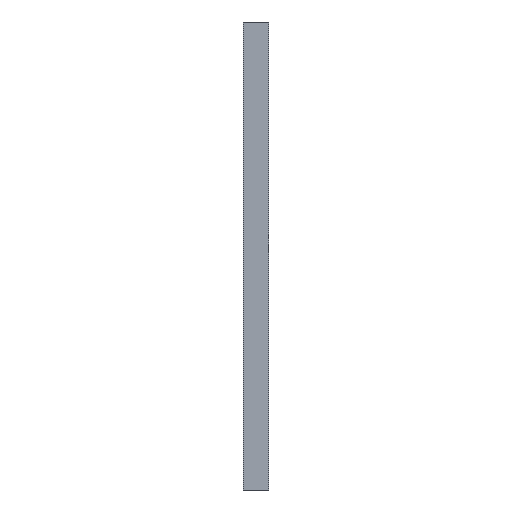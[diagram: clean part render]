
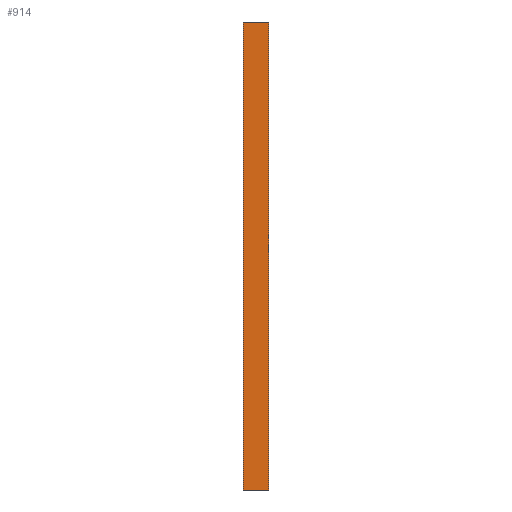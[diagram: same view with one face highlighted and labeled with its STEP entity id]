
A CAD part, left-side view. The second image highlights one B-rep face of the part: STEP entity #914.
In plain terms, the highlighted planar face has unit normal (-1, 0, 0).
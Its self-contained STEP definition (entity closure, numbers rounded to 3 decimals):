
#18 = ORIENTED_EDGE ( 'NONE', *, *, #453, .F. ) ;
#79 = CARTESIAN_POINT ( 'NONE',  ( -205.5, -20., -334. ) ) ;
#127 = VERTEX_POINT ( 'NONE', #218 ) ;
#185 = LINE ( 'NONE', #553, #450 ) ;
#204 = DIRECTION ( 'NONE',  ( 0., 0., 1. ) ) ;
#218 = CARTESIAN_POINT ( 'NONE',  ( -205.5, -20., 30. ) ) ;
#247 = EDGE_CURVE ( 'NONE', #127, #995, #1006, .T. ) ;
#288 = ORIENTED_EDGE ( 'NONE', *, *, #247, .T. ) ;
#321 = DIRECTION ( 'NONE',  ( 0., 1., 0. ) ) ;
#361 = DIRECTION ( 'NONE',  ( 0., 0., 1. ) ) ;
#374 = VECTOR ( 'NONE', #433, 1000. ) ;
#403 = AXIS2_PLACEMENT_3D ( 'NONE', #595, #852, #414 ) ;
#414 = DIRECTION ( 'NONE',  ( 0., 0., 1. ) ) ;
#418 = VERTEX_POINT ( 'NONE', #944 ) ;
#433 = DIRECTION ( 'NONE',  ( 0., 1., 0. ) ) ;
#450 = VECTOR ( 'NONE', #361, 1000. ) ;
#453 = EDGE_CURVE ( 'NONE', #863, #418, #1119, .T. ) ;
#455 = LINE ( 'NONE', #1066, #1003 ) ;
#489 = EDGE_LOOP ( 'NONE', ( #785, #18, #640, #288 ) ) ;
#501 = PLANE ( 'NONE',  #403 ) ;
#553 = CARTESIAN_POINT ( 'NONE',  ( -205.5, 0., -334. ) ) ;
#573 = CARTESIAN_POINT ( 'NONE',  ( -205.5, -20., -334. ) ) ;
#595 = CARTESIAN_POINT ( 'NONE',  ( -205.5, -20., -334. ) ) ;
#640 = ORIENTED_EDGE ( 'NONE', *, *, #650, .T. ) ;
#650 = EDGE_CURVE ( 'NONE', #863, #127, #455, .T. ) ;
#711 = EDGE_CURVE ( 'NONE', #418, #995, #185, .T. ) ;
#759 = CARTESIAN_POINT ( 'NONE',  ( -205.5, -20., 30. ) ) ;
#785 = ORIENTED_EDGE ( 'NONE', *, *, #711, .F. ) ;
#825 = CARTESIAN_POINT ( 'NONE',  ( -205.5, 0., 30. ) ) ;
#852 = DIRECTION ( 'NONE',  ( -1., 0., 0. ) ) ;
#861 = FACE_OUTER_BOUND ( 'NONE', #489, .T. ) ;
#863 = VERTEX_POINT ( 'NONE', #573 ) ;
#914 = ADVANCED_FACE ( 'NONE', ( #861 ), #501, .T. ) ;
#944 = CARTESIAN_POINT ( 'NONE',  ( -205.5, 0., -334. ) ) ;
#995 = VERTEX_POINT ( 'NONE', #825 ) ;
#1003 = VECTOR ( 'NONE', #204, 1000. ) ;
#1006 = LINE ( 'NONE', #759, #1043 ) ;
#1043 = VECTOR ( 'NONE', #321, 1000. ) ;
#1066 = CARTESIAN_POINT ( 'NONE',  ( -205.5, -20., -334. ) ) ;
#1119 = LINE ( 'NONE', #79, #374 ) ;
